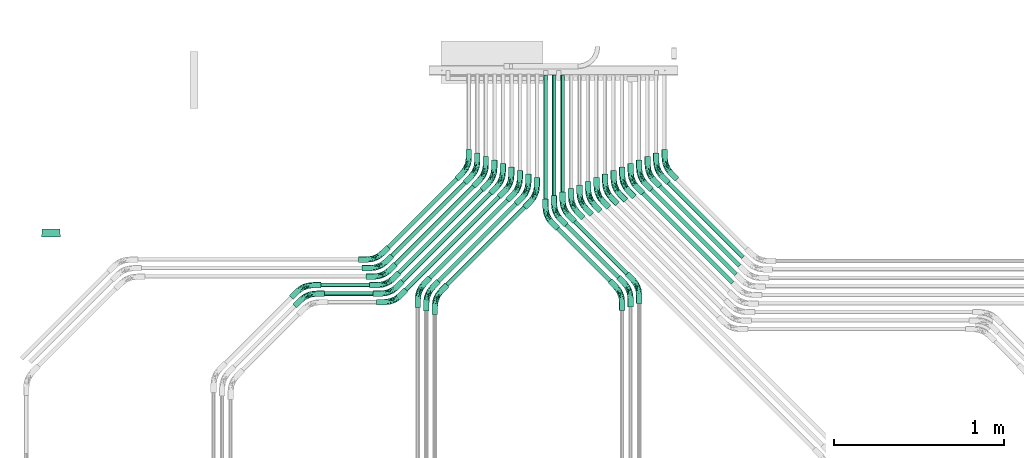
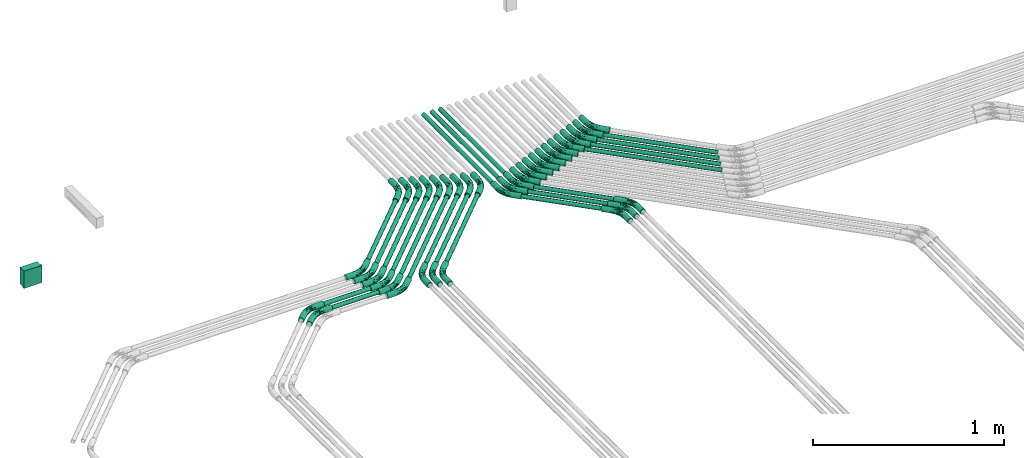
# One storey, part 16 of 51: 39 flow fittings, 21 flow segments.
"""IFC2X3 building model written with IfcOpenShell, lengths in millimetres."""

import ifcopenshell
import ifcopenshell.guid

model = None  # the IFC model being written
_history = None  # IfcOwnerHistory: only IFC2X3 demands one
_inside = {}  # id of a spatial element -> (the spatial element, [elements in it])
_under = {}  # id of a project, library or spatial element -> (it, [spatial elements below it])
_declared = {}  # id of a project -> (the project, [libraries it declares])
_typed = {}  # id of a type object -> (the type object, [elements of that type])
_made_of = {}  # id of a material, layer set ... -> (it, [elements and type objects made of it])


def new_model(schema):
    """Start an empty IFC model of exactly this schema.

    Asked for "IFC4X3", IfcOpenShell would pick the latest addendum, in which some entities
    have other attributes; the version numbers below select the first issue.
    IFC2X3 requires an IfcOwnerHistory on every rooted entity: one is made here for all.
    """
    global model, _history
    if schema == "IFC4X3":
        model = ifcopenshell.file(schema_version=(4, 3, 0, 0))
    else:
        model = ifcopenshell.file(schema=schema)
    _inside.clear()
    _under.clear()
    _declared.clear()
    _typed.clear()
    _made_of.clear()
    _history = None
    if model.schema == "IFC2X3":
        org = make("IfcOrganization", Name="unknown")
        user = make(
            "IfcPersonAndOrganization",
            ThePerson=make("IfcPerson", FamilyName="unknown"),
            TheOrganization=org,
        )
        app = make(
            "IfcApplication",
            ApplicationDeveloper=org,
            Version="unknown",
            ApplicationFullName="unknown",
            ApplicationIdentifier="unknown",
        )
        _history = make(
            "IfcOwnerHistory",
            OwningUser=user,
            OwningApplication=app,
            ChangeAction="ADDED",
            CreationDate=0,
        )
    return model


def make(cls, **values):
    """One entity of the class cls with the attributes given. An attribute that is None is left unset."""
    return model.create_entity(
        cls, **{name: value for name, value in values.items() if value is not None}
    )


def entity(cls, *values):
    """Any entity or typed value of the class cls, its attributes in the order of the schema. None: left unset."""
    e = model.create_entity(cls)
    for i, value in enumerate(values):
        if value is not None:
            e[i] = value
    return e


def rooted(cls, **values):
    """An entity with a GlobalId (a new one), such as an element, a storey or a relation."""
    return make(cls, GlobalId=ifcopenshell.guid.new(), OwnerHistory=_history, **values)


def si_unit(unit_type, name, prefix=None):
    """IfcSIUnit, for example si_unit("LENGTHUNIT", "METRE", prefix="MILLI")."""
    return make("IfcSIUnit", UnitType=unit_type, Prefix=prefix, Name=name)


def converted_unit(unit_type, name, factor, base, dimensions=None, offset=None):
    """IfcConversionBasedUnit, such as the inch: factor (a typed value) times the base unit."""
    return make(
        "IfcConversionBasedUnit"
        if offset is None
        else "IfcConversionBasedUnitWithOffset",
        ConversionOffset=offset,
        Dimensions=None
        if dimensions is None
        else entity("IfcDimensionalExponents", *dimensions),
        UnitType=unit_type,
        Name=name,
        ConversionFactor=make(
            "IfcMeasureWithUnit", ValueComponent=factor, UnitComponent=base
        ),
    )


def derived_unit(unit_type, elements):
    """IfcDerivedUnit: a product of units, each with its exponent."""
    return make(
        "IfcDerivedUnit",
        Elements=[
            make("IfcDerivedUnitElement", Unit=unit, Exponent=power)
            for unit, power in elements
        ],
        UnitType=unit_type,
    )


def assignment(units):
    """IfcUnitAssignment: the units of a project."""
    return None if units is None else make("IfcUnitAssignment", Units=units)


def point(xyz):
    """IfcCartesianPoint."""
    return None if xyz is None else make("IfcCartesianPoint", Coordinates=xyz)


def direction(xyz):
    """IfcDirection."""
    return None if xyz is None else make("IfcDirection", DirectionRatios=xyz)


def frame(location, z_axis=None, x_axis=None):
    """IfcAxis2Placement3D, a coordinate frame: its origin and axes. An axis left out is left unset."""
    return make(
        "IfcAxis2Placement3D",
        Location=point(location),
        Axis=direction(z_axis),
        RefDirection=direction(x_axis),
    )


def frame_2d(location, x_axis=None):
    """IfcAxis2Placement2D, a coordinate frame in the plane: its origin and x axis."""
    return make(
        "IfcAxis2Placement2D", Location=point(location), RefDirection=direction(x_axis)
    )


def origin_with_axes():
    """The frame at (0, 0, 0) with the z axis (0, 0, 1) and the x axis (1, 0, 0) written out."""
    return frame((0.0, 0.0, 0.0), z_axis=(0.0, 0.0, 1.0), x_axis=(1.0, 0.0, 0.0))


def origin_2d_with_axis():
    """The frame at (0, 0) in the plane with the x axis (1, 0) written out."""
    return frame_2d((0.0, 0.0), x_axis=(1.0, 0.0))


def place(relative_to, where):
    """IfcLocalPlacement: puts the frame where relative to a parent placement (None: the world)."""
    return make(
        "IfcLocalPlacement", PlacementRelTo=relative_to, RelativePlacement=where
    )


def context(
    kind, dimensions, precision=None, world=None, true_north=None, identifier=None
):
    """IfcGeometricRepresentationContext, for example the 3D "Model" context."""
    return make(
        "IfcGeometricRepresentationContext",
        ContextIdentifier=identifier,
        ContextType=kind,
        CoordinateSpaceDimension=dimensions,
        Precision=precision,
        WorldCoordinateSystem=world,
        TrueNorth=true_north,
    )


def subcontext(parent, identifier, kind, view, scale=None):
    """IfcGeometricRepresentationSubContext, for example "Body" below "Model"."""
    return make(
        "IfcGeometricRepresentationSubContext",
        ContextIdentifier=identifier,
        ContextType=kind,
        ParentContext=parent,
        TargetScale=scale,
        TargetView=view,
    )


def project(units=None, contexts=None):
    """IfcProject with its units and contexts."""
    return rooted(
        "IfcProject",
        Name="project",
        RepresentationContexts=contexts,
        UnitsInContext=assignment(units),
    )


def spatial(cls, under=None, at=None, **own):
    """A site, building, storey or space (cls), placed at a placement, below another one or the project."""
    s = rooted(cls, ObjectPlacement=at, **own)
    if under is not None:
        _under.setdefault(under.id(), (under, []))[1].append(s)
    return s


def profile(cls, at=None, kind="AREA", **sizes):
    """A parametric profile (cls). Its sizes go by their IFC names, for example OverallWidth=200.0."""
    return make(cls, ProfileType=kind, Position=at, **sizes)


def hollow_circle(**sizes):
    """IfcCircleHollowProfileDef."""
    return profile("IfcCircleHollowProfileDef", **sizes)


def extrude(swept, where, along, depth):
    """IfcExtrudedAreaSolid: the profile swept, set in the frame where, extruded along a direction by depth."""
    return make(
        "IfcExtrudedAreaSolid",
        SweptArea=swept,
        Position=where,
        ExtrudedDirection=direction(along),
        Depth=depth,
    )


def faces_of(points, faces, orient=None, outer=None):
    """IfcFace entities. A face is a list of loops; a loop is a list of indices into points, from 0.

    orient and outer hold one flag for each loop. By default every Orientation is true, the
    first loop of a face is its IfcFaceOuterBound and the others are IfcFaceBound.
    """
    made = []
    for i, loops in enumerate(faces):
        bounds = []
        for j, loop in enumerate(loops):
            is_outer = j == 0 if outer is None else outer[i][j]
            bounds.append(
                make(
                    "IfcFaceOuterBound" if is_outer else "IfcFaceBound",
                    Bound=make("IfcPolyLoop", Polygon=[points[k] for k in loop]),
                    Orientation=True if orient is None else orient[i][j],
                )
            )
        made.append(make("IfcFace", Bounds=bounds))
    return made


def open_shell(faces, orient=None, outer=None):
    """The faces of one IfcOpenShell. surface_model builds it on its shared points."""
    return ("IfcOpenShell", faces, orient, outer)


def surface_model(cls, points, shells):
    """IfcFaceBasedSurfaceModel or IfcShellBasedSurfaceModel (cls): surfaces that need not close."""
    shared = [point(p) for p in points]
    made = [make(c, CfsFaces=faces_of(shared, fs, o, b)) for c, fs, o, b in shells]
    if cls == "IfcFaceBasedSurfaceModel":
        return make(cls, FbsmFaces=made)
    return make(cls, SbsmBoundary=made)


def shape(context_of_items, identifier, shape_type, items):
    """IfcShapeRepresentation: the items that make up one representation, for example the "Body"."""
    return make(
        "IfcShapeRepresentation",
        ContextOfItems=context_of_items,
        RepresentationIdentifier=identifier,
        RepresentationType=shape_type,
        Items=items,
    )


def source(mapping_origin, context_of_items, identifier, shape_type, items):
    """IfcRepresentationMap: a shape defined once, which mapped items show again and again."""
    return make(
        "IfcRepresentationMap",
        MappingOrigin=mapping_origin,
        MappedRepresentation=shape(context_of_items, identifier, shape_type, items),
    )


def transform(
    local_origin,
    x_axis=None,
    y_axis=None,
    z_axis=None,
    scale=None,
    scale2=None,
    scale3=None,
    uniform=True,
):
    """IfcCartesianTransformationOperator3D, or its non-uniform kind. x_axis, y_axis, z_axis: its Axis1, 2, 3."""
    if uniform:
        return make(
            "IfcCartesianTransformationOperator3D",
            Axis1=direction(x_axis),
            Axis2=direction(y_axis),
            LocalOrigin=point(local_origin),
            Scale=scale,
            Axis3=direction(z_axis),
        )
    return make(
        "IfcCartesianTransformationOperator3DnonUniform",
        Axis1=direction(x_axis),
        Axis2=direction(y_axis),
        LocalOrigin=point(local_origin),
        Scale=scale,
        Axis3=direction(z_axis),
        Scale2=scale2,
        Scale3=scale3,
    )


def mapped(mapping_source, mapping_target):
    """IfcMappedItem: shows the shape of a source again, moved by a transform."""
    return make(
        "IfcMappedItem", MappingSource=mapping_source, MappingTarget=mapping_target
    )


def made_of(thing, what):
    """Note that an element or type object is made of a material, layer set ...; save() writes the relation."""
    if what is not None:
        _made_of.setdefault(what.id(), (what, []))[1].append(thing)
    return thing


def type_object(cls, material=None, **own):
    """A type object (cls), such as IfcWallType, which elements share."""
    return made_of(rooted(cls, **own), material)


def element(
    cls,
    number,
    at=None,
    inside=None,
    cuts=None,
    type_object=None,
    material=None,
    context=None,
    identifier="Body",
    shape_type=None,
    held_by="IfcProductDefinitionShape",
    body=None,
    shapes=None,
    **own,
):
    """One element of the class cls, such as IfcWall. Its Tag is "e" and its number.

    at: its placement. inside: the storey or other place that contains it. cuts: it is an
    opening in that element (IfcRelVoidsElement). A single representation is given by context,
    identifier, shape_type and body (its items); several are given by shapes. held_by: the class
    of the entity that holds the representations. save() writes the other relations.
    """
    e = rooted(cls, Tag="e%d" % number, ObjectPlacement=at, **own)
    if body is not None:
        shapes = [shape(context, identifier, shape_type, body)]
    if shapes is not None:
        e.Representation = make(held_by, Representations=shapes)
    if inside is not None:
        _inside.setdefault(inside.id(), (inside, []))[1].append(e)
    if cuts is not None:
        rooted(
            "IfcRelVoidsElement", RelatingBuildingElement=cuts, RelatedOpeningElement=e
        )
    if type_object is not None:
        _typed.setdefault(type_object.id(), (type_object, []))[1].append(e)
    return made_of(e, material)


def aggregate(whole, parts):
    """IfcRelAggregates: a whole, such as a stair, and the parts it consists of."""
    return rooted("IfcRelAggregates", RelatingObject=whole, RelatedObjects=parts)


def save(model, path):
    """Write the relations noted so far, then the file.

    IfcRelAggregates (storeys below a building ...), IfcRelContainedInSpatialStructure (elements
    in a storey), IfcRelDefinesByType, IfcRelAssociatesMaterial and IfcRelDeclares: one each for
    every whole, place, type object, material and project.
    """
    for whole, parts in _under.values():
        aggregate(whole, parts)
    for where, things in _inside.values():
        rooted(
            "IfcRelContainedInSpatialStructure",
            RelatedElements=things,
            RelatingStructure=where,
        )
    for kind, things in _typed.values():
        rooted("IfcRelDefinesByType", RelatedObjects=things, RelatingType=kind)
    for what, things in _made_of.values():
        rooted("IfcRelAssociatesMaterial", RelatedObjects=things, RelatingMaterial=what)
    for by, libraries in _declared.values():
        rooted("IfcRelDeclares", RelatingContext=by, RelatedDefinitions=libraries)
    model.write(path)


model = new_model("IFC2X3")

# Units and contexts
model_context = context("Model", 3, precision=0.01, world=frame((0.0, 4.29681676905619e-09, 0.0)), true_north=direction((4.01073788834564e-13, 1.0)))
plan_context = context("Plan", 3, precision=0.01, world=frame((0.0, 4.29681676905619e-09, 0.0)), true_north=direction((4.01073788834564e-13, 1.0)))
body_context = subcontext(model_context, "Body", "Model", "MODEL_VIEW")
ifc_project = project(units=[converted_unit("PLANEANGLEUNIT", "DEGREE", entity("IfcPositiveLengthMeasure", 0.0174532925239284), si_unit("PLANEANGLEUNIT", "RADIAN"), dimensions=[0, 0, 0, 0, 0, 0, 0]), si_unit("AREAUNIT", "SQUARE_METRE"), si_unit("LENGTHUNIT", "METRE", prefix="MILLI"), si_unit("MASSUNIT", "GRAM", prefix="KILO"), si_unit("POWERUNIT", "WATT"), si_unit("PRESSUREUNIT", "PASCAL"), si_unit("FORCEUNIT", "NEWTON", prefix="KILO"), si_unit("ELECTRICVOLTAGEUNIT", "VOLT"), si_unit("ELECTRICCURRENTUNIT", "AMPERE"), si_unit("THERMODYNAMICTEMPERATUREUNIT", "DEGREE_CELSIUS"), si_unit("TIMEUNIT", "SECOND"), si_unit("VOLUMEUNIT", "CUBIC_METRE"), derived_unit("LINEARVELOCITYUNIT", [(si_unit("LENGTHUNIT", "METRE"), 1), (si_unit("TIMEUNIT", "SECOND"), -1)]), derived_unit("VOLUMETRICFLOWRATEUNIT", [(si_unit("VOLUMEUNIT", "CUBIC_METRE"), 1), (si_unit("TIMEUNIT", "SECOND"), -1)]), derived_unit("THERMALTRANSMITTANCEUNIT", [(si_unit("POWERUNIT", "WATT"), 1), (si_unit("THERMODYNAMICTEMPERATUREUNIT", "KELVIN"), -1), (si_unit("AREAUNIT", "SQUARE_METRE"), -1)]), derived_unit("SOUNDPRESSUREUNIT", [(si_unit("PRESSUREUNIT", "PASCAL"), 1)])], contexts=[model_context, plan_context])

# Site, building, storey
site_placement = place(None, frame((0.0, -4.29681676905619e-09, 0.0), z_axis=(0.0, 0.0, 1.0), x_axis=(1.0, 0.0, 0.0)))
site = spatial("IfcSite", under=ifc_project, at=site_placement, Name="ENGM", CompositionType="ELEMENT")
building_placement = place(site_placement, frame((0.0, 4.29681676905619e-09, 0.0), z_axis=(0.0, 0.0, 1.0), x_axis=(1.0, 0.0, 0.0)))
building = spatial("IfcBuilding", under=site, at=building_placement, Name="TI", CompositionType="ELEMENT")
storey_placement = place(building_placement, frame((0.0, 0.0, 210900.0), z_axis=(0.0, 0.0, 1.0), x_axis=(1.0, 0.0, 0.0)))
storey = spatial("IfcBuildingStorey", under=building, at=storey_placement, Name="Nivå F", CompositionType="ELEMENT", Elevation=210900.0)

# Flow fittings
cable_carrier_fitting_type = type_object("IfcCableCarrierFittingType", Name="Trekkerør, glatt bend", PredefinedType="BEND")
shared_shape_1 = source(origin_with_axes(), body_context, "Body", "SurfaceModel", [
    surface_model("IfcShellBasedSurfaceModel", [(-101.90646, 8.46055, -14.6541), (-101.90646, 4.3795, -16.34452), (-101.90646, 0.0, -16.92109), (-101.90646, 14.6541, -8.46055), (-101.90646, -8.46055, -14.6541), (-101.90646, 11.96502, -11.96502), (-101.90646, -16.92109, 0.0), (-101.90646, -16.34452, 4.3795), (-101.90646, -11.96502, -11.96502), (-101.90646, -14.6541, -8.46055), (-101.90646, -4.3795, -16.34452), (-101.90646, -16.34452, -4.3795), (-101.90646, 16.92109, 0.0), (-101.90646, 16.34452, -4.3795), (-101.90646, 16.34452, 4.3795), (-101.90646, 14.6541, 8.46055), (-101.90646, 8.46055, 14.6541), (-101.90646, 11.96502, 11.96502), (-101.90646, 0.0, 16.92109), (-101.90646, 4.3795, 16.34452), (-101.90646, -11.96502, 11.96502), (-101.90646, -8.46055, 14.6541), (-101.90646, -14.6541, 8.46055), (-101.90646, -4.3795, 16.34452), (-54.58849, -16.92109, 0.0), (-54.58849, -16.34452, 4.3795), (-54.58849, -14.6541, 8.46055), (-54.58849, -11.96502, 11.96502), (-54.58849, -8.46055, 14.6541), (-54.58849, -4.3795, 16.34452), (-54.58849, 0.0, 16.92109), (-54.58849, 4.3795, 16.34452), (-54.58849, 8.46055, 14.6541), (-54.58849, 11.96502, 11.96502), (-54.58849, 14.6541, 8.46055), (-54.58849, 16.34452, 4.3795), (-54.58849, 16.92109, 0.0), (-54.58849, 16.34452, -4.3795), (-54.58849, 14.6541, -8.46055), (-54.58849, 11.96502, -11.96502), (-54.58849, 8.46055, -14.6541), (-54.58849, 4.3795, -16.34452), (-54.58849, 0.0, -16.92109), (-54.58849, -4.3795, -16.34452), (-54.58849, -8.46055, -14.6541), (-54.58849, -11.96502, -11.96502), (-54.58849, -14.6541, -8.46055), (-54.58849, -16.34452, -4.3795), (10.9245, -1.31078, 3.47544), (-13.36235, -10.76027, 3.27049), (-16.09967, -11.85394, 0.0), (41.69667, 35.50312, 16.34452), (38.59989, 38.59989, 16.92109), (22.26214, 21.90343, 16.76352), (-19.66365, -2.12805, 15.57779), (-29.58477, -8.16493, 13.36262), (-20.60685, -9.47816, 10.19127), (-34.07223, 17.39409, 6.62821), (-10.25807, 24.76518, 5.65746), (-29.40446, 19.36118, 3.4046), (-3.22837, 7.79397, 16.74683), (-31.22977, -0.25365, 16.76352), (35.50312, 41.69667, 16.34452), (32.61738, 44.5824, 14.6541), (17.47707, 29.1678, 15.66764), (-16.62388, 19.5721, 10.43045), (-25.92736, 13.63005, 13.4985), (5.09993, 25.84703, 13.50914), (-21.17216, 6.44783, 16.79403), (19.76619, 3.00218, 0.0), (-6.56017, 15.83764, 15.71089), (-32.9829, 8.26659, 15.66764), (19.50033, 6.79523, 10.18462), (48.96191, 28.23788, 8.46055), (47.06044, 30.13935, 11.96502), (-0.14544, 0.35113, 13.28643), (-24.85868, 20.8351, 0.0), (44.5824, 32.61738, 14.6541), (26.69306, 15.14611, 13.36262), (8.9424, 34.00903, 7.47137), (8.93562, 35.31889, 4.60583), (25.73601, 8.11548, 6.36012), (-6.07752, -7.50254, 6.29064), (28.23788, 48.96191, 8.46055), (10.0687, 32.56851, 10.38353), (30.13935, 47.06044, 11.96502), (-30.89964, -14.04008, 5.64535), (16.01237, 12.75836, 15.5789), (12.05401, 20.50658, 16.79305), (50.15722, 27.04257, 4.3795), (50.56491, 26.63487, 0.0), (32.88314, 11.79305, 2.69799), (2.8451, 32.31038, 0.0), (26.63487, 50.56491, 0.0), (27.04257, 50.15722, 4.3795), (-32.9829, 8.26659, -15.66764), (16.55602, 18.09298, -16.75967), (38.59989, 38.59989, -16.92109), (41.69667, 35.50312, -16.34452), (30.13935, 47.06044, -11.96502), (32.61738, 44.5824, -14.6541), (8.69552, 27.97131, -13.4985), (-6.56017, 15.83764, -15.71089), (-21.88281, 14.67041, -13.50914), (-31.29267, 18.65579, -4.60583), (-30.37125, 17.72478, -7.47137), (-10.25807, 24.76517, -5.65746), (-1.59965, 3.86188, -15.54749), (17.63726, 9.2923, -13.33594), (-19.1381, -5.92521, -13.33619), (-2.08471, 25.59442, -10.43045), (-30.14906, 15.90977, -10.38353), (-24.73941, 5.56629, -16.79215), (10.41167, 19.53028, -16.79403), (-18.36618, -11.17146, -6.33871), (-28.92763, -11.20296, -10.21852), (-19.67101, 2.27248, -16.75686), (-22.81878, -13.17372, -3.2081), (17.47707, 29.1678, -15.66764), (-30.36783, -4.42984, -15.59506), (24.60567, 18.34093, -15.59506), (35.50312, 41.69667, -16.34452), (7.10167, 34.48251, -3.4046), (27.04257, 50.15722, -4.3795), (44.5824, 32.61738, -14.6541), (47.06044, 30.13935, -11.96502), (28.23788, 48.96191, -8.46055), (11.79322, 36.39219, -6.62821), (1.03493, -2.49855, -10.11808), (48.96191, 28.23788, -8.46055), (28.37661, 12.53324, -10.21852), (20.88626, 5.08744, -6.33871), (25.45054, 6.82009, -3.2081), (2.19574, -5.30098, -3.30061), (50.15722, 27.04257, -4.3795), (60.50143, 83.61607, -4.3795), (72.05875, 72.05875, -16.92109), (68.96197, 75.15552, -16.34452), (66.07624, 78.04126, -14.6541), (63.5982, 80.51929, -11.96502), (61.69674, 82.42076, -8.46055), (75.15552, 68.96197, -16.34452), (80.51929, 63.5982, -11.96502), (78.04126, 66.07624, -14.6541), (83.61607, 60.50143, -4.3795), (82.42076, 61.69674, -8.46055), (83.61607, 60.50143, 4.3795), (84.02377, 60.09373, 0.0), (75.15552, 68.96197, 16.34452), (60.50143, 83.61607, 4.3795), (61.69674, 82.42076, 8.46055), (66.07624, 78.04126, 14.6541), (72.05875, 72.05875, 16.92109), (63.5982, 80.51929, 11.96502), (68.96197, 75.15552, 16.34452), (80.51929, 63.5982, 11.96502), (82.42076, 61.69674, 8.46055), (78.04126, 66.07624, 14.6541), (60.09373, 84.02377, 0.0)], [open_shell([[[0, 1, 2]], [[3, 0, 2]], [[4, 3, 2]], [[5, 0, 3]], [[3, 6, 7]], [[8, 9, 4]], [[2, 10, 4]], [[9, 11, 4]], [[11, 3, 4]], [[3, 11, 6]], [[12, 13, 3]], [[12, 7, 14]], [[14, 7, 15]], [[16, 17, 18]], [[15, 18, 17]], [[18, 19, 16]], [[20, 21, 22]], [[15, 7, 22]], [[23, 18, 21]], [[15, 22, 21]], [[15, 21, 18]], [[3, 7, 12]], [[7, 24, 25]], [[26, 22, 25]], [[21, 27, 28]], [[26, 27, 20]], [[23, 28, 29]], [[24, 7, 6]], [[25, 22, 7]], [[26, 20, 22]], [[27, 21, 20]], [[23, 21, 28]], [[29, 18, 23]], [[29, 30, 18]], [[16, 31, 32]], [[33, 17, 32]], [[14, 34, 35]], [[33, 34, 15]], [[12, 35, 36]], [[31, 19, 30]], [[31, 16, 19]], [[30, 19, 18]], [[32, 17, 16]], [[33, 15, 17]], [[14, 15, 34]], [[35, 12, 14]], [[13, 36, 37]], [[38, 3, 37]], [[0, 39, 40]], [[38, 39, 5]], [[1, 40, 41]], [[36, 13, 12]], [[37, 3, 13]], [[38, 5, 3]], [[39, 0, 5]], [[1, 0, 40]], [[41, 2, 1]], [[41, 42, 2]], [[4, 43, 44]], [[45, 8, 44]], [[11, 46, 47]], [[45, 46, 9]], [[6, 47, 24]], [[43, 10, 42]], [[43, 4, 10]], [[42, 10, 2]], [[44, 8, 4]], [[45, 9, 8]], [[11, 9, 46]], [[47, 6, 11]], [[48, 49, 50]], [[49, 24, 50]], [[51, 52, 53]], [[29, 28, 54]], [[27, 55, 28]], [[56, 27, 26]], [[57, 58, 59]], [[60, 61, 54]], [[61, 30, 29]], [[62, 63, 64]], [[65, 66, 67]], [[31, 30, 68]], [[48, 50, 69]], [[67, 66, 70]], [[33, 32, 66]], [[65, 58, 57]], [[71, 32, 31]], [[72, 73, 74]], [[56, 72, 75]], [[59, 76, 36]], [[74, 77, 78]], [[36, 35, 59]], [[58, 79, 80]], [[81, 72, 82]], [[70, 71, 68]], [[83, 84, 85]], [[25, 49, 86]], [[34, 33, 65]], [[87, 77, 51]], [[54, 87, 60]], [[72, 56, 82]], [[88, 70, 68]], [[72, 81, 73]], [[73, 81, 89]], [[88, 62, 64]], [[78, 72, 74]], [[60, 88, 68]], [[90, 89, 91]], [[48, 81, 82]], [[55, 56, 75]], [[84, 67, 85]], [[59, 92, 76]], [[26, 86, 56]], [[92, 80, 93]], [[75, 78, 87]], [[80, 79, 94]], [[87, 51, 53]], [[70, 64, 67]], [[61, 68, 30]], [[65, 84, 79]], [[60, 53, 88]], [[67, 63, 85]], [[88, 52, 62]], [[65, 33, 66]], [[75, 87, 54]], [[91, 81, 48]], [[66, 32, 71]], [[55, 54, 28]], [[79, 84, 83]], [[67, 84, 65]], [[56, 55, 27]], [[54, 55, 75]], [[87, 78, 77]], [[72, 78, 75]], [[94, 79, 83]], [[65, 79, 58]], [[93, 80, 94]], [[92, 58, 80]], [[54, 61, 29]], [[68, 61, 60]], [[88, 53, 52]], [[87, 53, 60]], [[48, 82, 49]], [[91, 48, 69]], [[90, 91, 69]], [[81, 91, 89]], [[86, 49, 82]], [[24, 49, 25]], [[56, 86, 82]], [[26, 25, 86]], [[68, 71, 31]], [[66, 71, 70]], [[67, 64, 63]], [[88, 64, 70]], [[57, 35, 34]], [[92, 59, 58]], [[35, 57, 59]], [[65, 57, 34]], [[40, 95, 41]], [[96, 97, 98]], [[99, 100, 101]], [[102, 95, 103]], [[76, 104, 36]], [[104, 105, 37]], [[104, 106, 105]], [[107, 108, 109]], [[105, 110, 111]], [[40, 39, 103]], [[110, 99, 101]], [[112, 102, 113]], [[114, 46, 115]], [[116, 113, 96]], [[24, 47, 117]], [[110, 101, 103]], [[114, 47, 46]], [[101, 100, 118]], [[119, 44, 43]], [[112, 41, 95]], [[46, 45, 115]], [[45, 44, 109]], [[107, 119, 116]], [[113, 116, 112]], [[96, 98, 120]], [[113, 121, 97]], [[122, 76, 92]], [[112, 116, 42]], [[93, 123, 122]], [[124, 125, 108]], [[43, 42, 116]], [[110, 126, 99]], [[102, 103, 101]], [[106, 122, 127]], [[100, 121, 118]], [[128, 115, 109]], [[109, 44, 119]], [[127, 110, 106]], [[128, 109, 108]], [[113, 102, 118]], [[120, 98, 124]], [[113, 97, 96]], [[129, 130, 125]], [[107, 120, 108]], [[42, 41, 112]], [[107, 116, 96]], [[128, 130, 131]], [[128, 131, 114]], [[69, 132, 90]], [[69, 133, 132]], [[50, 117, 133]], [[133, 117, 114]], [[133, 69, 50]], [[129, 134, 131]], [[130, 108, 125]], [[122, 92, 93]], [[111, 103, 39]], [[38, 111, 39]], [[105, 111, 38]], [[103, 111, 110]], [[109, 115, 45]], [[114, 115, 128]], [[131, 130, 129]], [[108, 130, 128]], [[37, 105, 38]], [[110, 105, 106]], [[36, 104, 37]], [[76, 106, 104]], [[116, 119, 43]], [[109, 119, 107]], [[108, 120, 124]], [[96, 120, 107]], [[114, 131, 133]], [[132, 133, 131]], [[103, 95, 40]], [[112, 95, 102]], [[113, 118, 121]], [[101, 118, 102]], [[24, 117, 50]], [[47, 114, 117]], [[131, 134, 132]], [[90, 132, 134]], [[127, 123, 126]], [[76, 122, 106]], [[123, 127, 122]], [[110, 127, 126]], [[135, 136, 137]], [[135, 137, 138]], [[139, 140, 135]], [[139, 135, 138]], [[136, 135, 141]], [[141, 142, 143]], [[142, 141, 144]], [[142, 144, 145]], [[141, 135, 144]], [[144, 146, 147]], [[144, 135, 148]], [[135, 149, 150]], [[150, 151, 135]], [[151, 152, 135]], [[151, 150, 153]], [[151, 154, 152]], [[146, 155, 156]], [[155, 146, 157]], [[146, 148, 157]], [[146, 144, 148]], [[152, 148, 135]], [[149, 135, 158]], [[89, 147, 146]], [[156, 73, 146]], [[77, 155, 157]], [[156, 155, 74]], [[51, 157, 148]], [[147, 89, 90]], [[146, 73, 89]], [[156, 74, 73]], [[155, 77, 74]], [[51, 77, 157]], [[148, 52, 51]], [[148, 152, 52]], [[63, 154, 151]], [[153, 85, 151]], [[94, 150, 149]], [[153, 150, 83]], [[93, 149, 158]], [[154, 62, 152]], [[154, 63, 62]], [[152, 62, 52]], [[151, 85, 63]], [[153, 83, 85]], [[94, 83, 150]], [[149, 93, 94]], [[93, 158, 135]], [[140, 123, 135]], [[138, 137, 121]], [[139, 138, 99]], [[126, 140, 139]], [[140, 126, 123]], [[123, 93, 135]], [[99, 138, 100]], [[100, 138, 121]], [[137, 97, 121]], [[99, 126, 139]], [[137, 136, 97]], [[124, 141, 143]], [[142, 125, 143]], [[134, 145, 144]], [[142, 145, 129]], [[90, 144, 147]], [[141, 98, 136]], [[141, 124, 98]], [[136, 98, 97]], [[143, 125, 124]], [[142, 129, 125]], [[134, 129, 145]], [[144, 90, 134]]])]),
])
for number, where, z_axis, x_axis, name in (
    (1, (601074.75961, 698508.50371, -56.7999999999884), (0.0, 0.0, 1.0), (0.0, -1.0, 0.0), "Trekkerør, glatt bend"),
    (2, (601525.0, 698058.26332, -56.7999999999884), (0.0, 0.0, 1.0), (0.0, 1.0, 0.0), "Trekkerør, glatt bend"),
    (3, (601124.75961, 698529.21439, -56.7999999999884), (0.0, 0.0, 1.0), (0.0, -1.0, 0.0), "Trekkerør, glatt bend"),
    (4, (601575.0, 698078.974, -56.7999999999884), (0.0, 0.0, 1.0), (0.0, 1.0, 0.0), "Trekkerør, glatt bend"),
    (5, (601174.75961, 698549.92507, -56.7999999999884), (0.0, 0.0, 1.0), (0.0, -1.0, 0.0), "Trekkerør, glatt bend"),
    (6, (601625.0, 698099.68468, -56.7999999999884), (0.0, 0.0, 1.0), (0.0, 1.0, 0.0), "Trekkerør, glatt bend"),
    (7, (601774.75961, 698798.95573, -56.7999999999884), (0.0, 0.0, 1.0), (0.0, -1.0, 0.0), "Trekkerør, glatt bend"),
    (8, (601724.75961, 698778.24505, -56.7999999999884), (0.0, 0.0, 1.0), (0.0, -1.0, 0.0), "Trekkerør, glatt bend"),
    (9, (601674.75961, 698757.53437, -56.7999999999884), (0.0, 0.0, 1.0), (0.0, -1.0, 0.0), "Trekkerør, glatt bend"),
    (10, (601624.75961, 698736.82369, -56.7999999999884), (0.0, 0.0, 1.0), (0.0, -1.0, 0.0), "Trekkerør, glatt bend"),
    (11, (601574.75961, 698716.11302, -56.7999999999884), (0.0, 0.0, 1.0), (0.0, -1.0, 0.0), "Trekkerør, glatt bend"),
    (12, (601524.75961, 698695.40234, -56.7999999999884), (0.0, 0.0, 1.0), (0.0, -1.0, 0.0), "Trekkerør, glatt bend"),
    (13, (601474.75961, 698674.69166, -56.7999999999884), (0.0, 0.0, 1.0), (0.0, -1.0, 0.0), "Trekkerør, glatt bend"),
    (14, (601424.75961, 698653.98098, -56.7999999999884), (0.0, 0.0, 1.0), (0.0, -1.0, 0.0), "Trekkerør, glatt bend"),
    (15, (601374.75961, 698633.2703, -56.7999999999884), (0.0, 0.0, 1.0), (0.0, -1.0, 0.0), "Trekkerør, glatt bend"),
    (16, (601324.75961, 698612.55963, -56.7999999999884), (0.0, 0.0, 1.0), (0.0, -1.0, 0.0), "Trekkerør, glatt bend"),
    (17, (601274.75961, 698591.84895, -56.7999999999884), (0.0, 0.0, 1.0), (0.0, -1.0, 0.0), "Trekkerør, glatt bend"),
    (18, (601224.75961, 698571.13827, -56.7999999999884), (0.0, 0.0, 1.0), (0.0, -1.0, 0.0), "Trekkerør, glatt bend"),
    (19, (599654.25757, 698104.50648, -56.7999999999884), (0.0, 0.0, 1.0), (-1.0, 0.0, 0.0), "Trekkerør, glatt bend"),
    (20, (599674.96825, 698054.50648, -56.7999999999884), (0.0, 0.0, 1.0), (-1.0, 0.0, 0.0), "Trekkerør, glatt bend"),
    (21, (600079.78036, 698254.50648, -56.7999999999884), (0.0, 0.0, 1.0), (1.0, 0.0, 0.0), "Trekkerør, glatt bend"),
    (22, (600624.75961, 698799.48573, -56.7999999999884), (0.0, 0.0, 1.0), (0.707106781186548, 0.707106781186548, 0.0), "Trekkerør, glatt bend"),
    (23, (600141.9124, 698104.50648, -56.7999999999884), (0.0, 0.0, 1.0), (1.0, 0.0, 0.0), "Trekkerør, glatt bend"),
    (24, (600774.75961, 698737.3537, -56.7999999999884), (0.0, 0.0, 1.0), (0.707106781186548, 0.707106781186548, 0.0), "Trekkerør, glatt bend"),
    (25, (600100.49104, 698204.50648, -56.7999999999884), (0.0, 0.0, 1.0), (1.0, 0.0, 0.0), "Trekkerør, glatt bend"),
    (26, (600674.75961, 698778.77505, -56.7999999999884), (0.0, 0.0, 1.0), (0.707106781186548, 0.707106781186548, 0.0), "Trekkerør, glatt bend"),
    (27, (600121.20172, 698154.50648, -56.7999999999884), (0.0, 0.0, 1.0), (1.0, 0.0, 0.0), "Trekkerør, glatt bend"),
    (28, (600724.75961, 698758.06437, -56.7999999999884), (0.0, 0.0, 1.0), (0.707106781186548, 0.707106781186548, 0.0), "Trekkerør, glatt bend"),
    (29, (600162.62308, 698054.50648, -56.7999999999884), (0.0, 0.0, 1.0), (1.0, 0.0, 0.0), "Trekkerør, glatt bend"),
    (30, (600824.75961, 698716.64302, -56.7999999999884), (0.0, 0.0, 1.0), (0.707106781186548, 0.707106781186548, 0.0), "Trekkerør, glatt bend"),
    (31, (600183.33376, 698004.50648, -56.7999999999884), (0.0, 0.0, 1.0), (1.0, 0.0, 0.0), "Trekkerør, glatt bend"),
    (32, (600874.75961, 698695.93234, -56.7999999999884), (0.0, 0.0, 1.0), (0.707106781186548, 0.707106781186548, 0.0), "Trekkerør, glatt bend"),
    (33, (601024.75961, 698633.80031, -56.7999999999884), (0.0, 0.0, 1.0), (0.707106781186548, 0.707106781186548, 0.0), "Trekkerør, glatt bend"),
    (34, (600974.75961, 698654.51098, -56.7999999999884), (0.0, 0.0, 1.0), (0.707106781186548, 0.707106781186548, 0.0), "Trekkerør, glatt bend"),
    (35, (600924.75961, 698675.22166, -56.7999999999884), (0.0, 0.0, 1.0), (0.707106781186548, 0.707106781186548, 0.0), "Trekkerør, glatt bend"),
    (36, (600325.0, 698075.46205, -56.7999999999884), (0.0, 0.0, 1.0), (-0.707106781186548, -0.707106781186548, 0.0), "Trekkerør, glatt bend"),
    (37, (600375.0, 698054.75137, -56.7999999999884), (0.0, 0.0, 1.0), (-0.707106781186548, -0.707106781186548, 0.0), "Trekkerør, glatt bend"),
    (38, (600425.0, 698034.04069, -56.7999999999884), (0.0, 0.0, 1.0), (-0.707106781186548, -0.707106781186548, 0.0), "Trekkerør, glatt bend"),
):
    element("IfcFlowFitting", number, at=place(storey_placement, frame(where, z_axis=z_axis, x_axis=x_axis)), inside=storey, type_object=cable_carrier_fitting_type, Name=name, context=body_context, shape_type="MappedRepresentation", body=[
        mapped(shared_shape_1, transform((0.0, 0.0, 0.0), scale=1.0)),
    ])
junction_box_type = type_object("IfcJunctionBoxType", Name="Koblingsboks åpen", PredefinedType="NOTDEFINED")
shared_shape_2 = source(origin_with_axes(), body_context, "Body", "SurfaceModel", [
    surface_model("IfcShellBasedSurfaceModel", [(-55.0, 46.0, 55.0), (-55.0, 32.2, 55.0), (55.0, 32.2, 55.0), (55.0, 46.0, 55.0), (55.0, 46.0, -55.0), (55.0, 32.2, -55.0), (-55.0, 32.2, -55.0), (-55.0, 46.0, -55.0), (-52.0, 32.2, 52.0), (-52.0, 0.0, 52.0), (52.0, 0.0, 52.0), (52.0, 32.2, 52.0), (52.0, 32.2, -52.0), (52.0, 0.0, -52.0), (-52.0, 0.0, -52.0), (-52.0, 32.2, -52.0)], [open_shell([[[0, 1, 2]], [[2, 3, 0]], [[4, 5, 6]], [[6, 7, 4]], [[2, 1, 6]], [[6, 5, 2]], [[3, 2, 5]], [[5, 4, 3]], [[0, 3, 4]], [[4, 7, 0]], [[1, 0, 7]], [[7, 6, 1]], [[8, 9, 10]], [[10, 11, 8]], [[12, 13, 14]], [[14, 15, 12]], [[10, 9, 14]], [[14, 13, 10]], [[11, 10, 13]], [[13, 12, 11]], [[8, 11, 12]], [[12, 15, 8]], [[9, 8, 15]], [[15, 14, 9]]])]),
])
flow_fitting_placement = place(storey_placement, frame((598170.00978, 698433.0, 500.0), z_axis=(0.0, 0.0, 1.0), x_axis=(-0.999999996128, -8.7999999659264e-05, 0.0)))
element("IfcFlowFitting", 39, at=flow_fitting_placement, inside=storey, type_object=junction_box_type, Name="Koblingsboks åpen", context=body_context, shape_type="MappedRepresentation", body=[
    mapped(shared_shape_2, transform((0.0, 0.0, 0.0), scale=1.0)),
])

# Flow segments
cable_carrier_segment_type = type_object("IfcCableCarrierSegmentType", Name="Trekkerør, korrugert", PredefinedType="CONDUITSEGMENT")
shared_shape_3 = source(origin_with_axes(), body_context, "Body", "SweptSolid", [
    extrude(hollow_circle(Radius=12.5, WallThickness=2.0, at=origin_2d_with_axis()), frame((0.0, 0.0, 0.0), z_axis=(1.0, 0.0, 0.0), x_axis=(0.0, 1.0, 0.0)), (0.0, 0.0, 1.0), 727.1),
])
flow_segment_1_placement = place(storey_placement, frame((601074.75961, 698610.41017, -56.7999999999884), z_axis=(0.0, 0.0, 1.0), x_axis=(0.0, 1.0, 0.0)))
element("IfcFlowSegment", 40, at=flow_segment_1_placement, inside=storey, type_object=cable_carrier_segment_type, Name="Trekkerør, korrugert", context=body_context, shape_type="MappedRepresentation", body=[
    mapped(shared_shape_3, transform((0.0, 0.0, 0.0), scale=1.0)),
])
shared_shape_4 = source(origin_with_axes(), body_context, "Body", "SweptSolid", [
    extrude(hollow_circle(Radius=12.5, WallThickness=2.0, at=origin_2d_with_axis()), frame((0.0, 0.0, 0.0), z_axis=(1.0, 0.0, 0.0), x_axis=(0.0, 1.0, 0.0)), (0.0, 0.0, 1.0), 432.9),
])
for number, where, z_axis, x_axis in (
    (41, (601146.81836, 698436.44496, -56.7999999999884), (0.0, 0.0, 1.0), (0.707097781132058, -0.707115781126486, 0.0)),
    (42, (601196.81836, 698457.15564, -56.7999999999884), (0.0, 0.0, 1.0), (0.707097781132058, -0.707115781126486, 0.0)),
    (43, (601246.81836, 698477.86632, -56.7999999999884), (0.0, 0.0, 1.0), (0.707097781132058, -0.707115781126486, 0.0)),
):
    element("IfcFlowSegment", number, at=place(storey_placement, frame(where, z_axis=z_axis, x_axis=x_axis)), inside=storey, type_object=cable_carrier_segment_type, Name="Trekkerør, korrugert", context=body_context, shape_type="MappedRepresentation", body=[
        mapped(shared_shape_4, transform((0.0, 0.0, 0.0), scale=1.0, scale2=1.0, scale3=1.0, uniform=False)),
    ])
shared_shape_5 = source(origin_with_axes(), body_context, "Body", "SweptSolid", [
    extrude(hollow_circle(Radius=12.5, WallThickness=2.0, at=origin_2d_with_axis()), frame((0.0, 0.0, 0.0), z_axis=(1.0, 0.0, 0.0), x_axis=(0.0, 1.0, 0.0)), (0.0, 0.0, 1.0), 706.4),
])
flow_segment_2_placement = place(storey_placement, frame((601124.75961, 698631.12085, -56.7999999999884), z_axis=(0.0, 0.0, 1.0), x_axis=(0.0, 1.0, 0.0)))
element("IfcFlowSegment", 44, at=flow_segment_2_placement, inside=storey, type_object=cable_carrier_segment_type, Name="Trekkerør, korrugert", context=body_context, shape_type="MappedRepresentation", body=[
    mapped(shared_shape_5, transform((0.0, 0.0, 0.0), scale=1.0)),
])
shared_shape_6 = source(origin_with_axes(), body_context, "Body", "SweptSolid", [
    extrude(hollow_circle(Radius=12.5, WallThickness=2.0, at=origin_2d_with_axis()), frame((0.0, 0.0, 0.0), z_axis=(1.0, 0.0, 0.0), x_axis=(0.0, 1.0, 0.0)), (0.0, 0.0, 1.0), 685.7),
])
flow_segment_3_placement = place(storey_placement, frame((601174.75961, 698651.83153, -56.7999999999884), z_axis=(0.0, 0.0, 1.0), x_axis=(0.0, 1.0, 0.0)))
element("IfcFlowSegment", 45, at=flow_segment_3_placement, inside=storey, type_object=cable_carrier_segment_type, Name="Trekkerør, korrugert", context=body_context, shape_type="MappedRepresentation", body=[
    mapped(shared_shape_6, transform((0.0, 0.0, 0.0), scale=1.0)),
])
shared_shape_7 = source(origin_with_axes(), body_context, "Body", "SweptSolid", [
    extrude(hollow_circle(Radius=12.5, WallThickness=2.0, at=origin_2d_with_axis()), frame((0.0, 0.0, 0.0), z_axis=(1.0, 0.0, 0.0), x_axis=(0.0, 1.0, 0.0)), (0.0, 0.0, 1.0), 619.4),
])
flow_segment_4_placement = place(storey_placement, frame((602234.80416, 698268.2005, -56.7999999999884), z_axis=(0.0, 0.0, 1.0), x_axis=(-0.707106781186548, 0.707106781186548, 0.0)))
element("IfcFlowSegment", 46, at=flow_segment_4_placement, inside=storey, type_object=cable_carrier_segment_type, Name="Trekkerør, korrugert", context=body_context, shape_type="MappedRepresentation", body=[
    mapped(shared_shape_7, transform((0.0, 0.0, 0.0), scale=1.0)),
])
shared_shape_8 = source(origin_with_axes(), body_context, "Body", "SweptSolid", [
    extrude(hollow_circle(Radius=12.5, WallThickness=2.0, at=origin_2d_with_axis()), frame((0.0, 0.0, 0.0), z_axis=(1.0, 0.0, 0.0), x_axis=(0.0, 1.0, 0.0)), (0.0, 0.0, 1.0), 660.8),
])
flow_segment_5_placement = place(storey_placement, frame((602214.09349, 698218.2005, -56.7999999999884), z_axis=(0.0, 0.0, 1.0), x_axis=(-0.707106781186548, 0.707106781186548, 0.0)))
element("IfcFlowSegment", 47, at=flow_segment_5_placement, inside=storey, type_object=cable_carrier_segment_type, Name="Trekkerør, korrugert", context=body_context, shape_type="MappedRepresentation", body=[
    mapped(shared_shape_8, transform((0.0, 0.0, 0.0), scale=1.0)),
])
shared_shape_9 = source(origin_with_axes(), body_context, "Body", "SweptSolid", [
    extrude(hollow_circle(Radius=12.5, WallThickness=2.0, at=origin_2d_with_axis()), frame((0.0, 0.0, 0.0), z_axis=(1.0, 0.0, 0.0), x_axis=(0.0, 1.0, 0.0)), (0.0, 0.0, 1.0), 702.2),
])
flow_segment_6_placement = place(storey_placement, frame((602193.38281, 698168.2005, -56.7999999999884), z_axis=(0.0, 0.0, 1.0), x_axis=(-0.707106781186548, 0.707106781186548, 0.0)))
element("IfcFlowSegment", 48, at=flow_segment_6_placement, inside=storey, type_object=cable_carrier_segment_type, Name="Trekkerør, korrugert", context=body_context, shape_type="MappedRepresentation", body=[
    mapped(shared_shape_9, transform((0.0, 0.0, 0.0), scale=1.0)),
])
shared_shape_10 = source(origin_with_axes(), body_context, "Body", "SweptSolid", [
    extrude(hollow_circle(Radius=12.5, WallThickness=2.0, at=origin_2d_with_axis()), frame((0.0, 0.0, 0.0), z_axis=(1.0, 0.0, 0.0), x_axis=(0.0, 1.0, 0.0)), (0.0, 0.0, 1.0), 743.7),
])
flow_segment_7_placement = place(storey_placement, frame((602172.67213, 698118.2005, -56.7999999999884), z_axis=(0.0, 0.0, 1.0), x_axis=(-0.707106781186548, 0.707106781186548, 0.0)))
element("IfcFlowSegment", 49, at=flow_segment_7_placement, inside=storey, type_object=cable_carrier_segment_type, Name="Trekkerør, korrugert", context=body_context, shape_type="MappedRepresentation", body=[
    mapped(shared_shape_10, transform((0.0, 0.0, 0.0), scale=1.0)),
])
shared_shape_11 = source(origin_with_axes(), body_context, "Body", "SweptSolid", [
    extrude(hollow_circle(Radius=12.5, WallThickness=2.0, at=origin_2d_with_axis()), frame((0.0, 0.0, 0.0), z_axis=(1.0, 0.0, 0.0), x_axis=(0.0, 1.0, 0.0)), (0.0, 0.0, 1.0), 643.7),
])
for number, where, z_axis, x_axis in (
    (50, (600497.05875, 698106.09944, -56.7999999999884), (0.0, 0.0, 1.0), (0.707106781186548, 0.707106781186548, 0.0)),
    (51, (600447.05875, 698126.81012, -56.7999999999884), (0.0, 0.0, 1.0), (0.707106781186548, 0.707106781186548, 0.0)),
    (52, (600397.05875, 698147.5208, -56.7999999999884), (0.0, 0.0, 1.0), (0.707106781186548, 0.707106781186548, 0.0)),
):
    element("IfcFlowSegment", number, at=place(storey_placement, frame(where, z_axis=z_axis, x_axis=x_axis)), inside=storey, type_object=cable_carrier_segment_type, Name="Trekkerør, korrugert", context=body_context, shape_type="MappedRepresentation", body=[
        mapped(shared_shape_11, transform((0.0, 0.0, 0.0), scale=1.0)),
    ])
shared_shape_12 = source(origin_with_axes(), body_context, "Body", "SweptSolid", [
    extrude(hollow_circle(Radius=12.5, WallThickness=2.0, at=origin_2d_with_axis()), frame((0.0, 0.0, 0.0), z_axis=(1.0, 0.0, 0.0), x_axis=(0.0, 1.0, 0.0)), (0.0, 0.0, 1.0), 283.8),
])
for number, where, z_axis, x_axis in (
    (53, (599756.16403, 698104.50648, -56.7999999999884), (0.0, 0.0, 1.0), (1.0, 0.0, 0.0)),
    (54, (599776.87471, 698054.50648, -56.7999999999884), (0.0, 0.0, 1.0), (1.0, 0.0, 0.0)),
):
    element("IfcFlowSegment", number, at=place(storey_placement, frame(where, z_axis=z_axis, x_axis=x_axis)), inside=storey, type_object=cable_carrier_segment_type, Name="Trekkerør, korrugert", context=body_context, shape_type="MappedRepresentation", body=[
        mapped(shared_shape_12, transform((0.0, 0.0, 0.0), scale=1.0)),
    ])
shared_shape_13 = source(origin_with_axes(), body_context, "Body", "SweptSolid", [
    extrude(hollow_circle(Radius=12.5, WallThickness=2.0, at=origin_2d_with_axis()), frame((0.0, 0.0, 0.0), z_axis=(1.0, 0.0, 0.0), x_axis=(0.0, 1.0, 0.0)), (0.0, 0.0, 1.0), 566.9),
])
flow_segment_8_placement = place(storey_placement, frame((600151.83912, 698326.56523, -56.7999999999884), z_axis=(0.0, 0.0, 1.0), x_axis=(0.707106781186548, 0.707106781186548, 0.0)))
element("IfcFlowSegment", 55, at=flow_segment_8_placement, inside=storey, type_object=cable_carrier_segment_type, Name="Trekkerør, korrugert", context=body_context, shape_type="MappedRepresentation", body=[
    mapped(shared_shape_13, transform((0.0, 0.0, 0.0), scale=1.0)),
])
shared_shape_14 = source(origin_with_axes(), body_context, "Body", "SweptSolid", [
    extrude(hollow_circle(Radius=12.5, WallThickness=2.0, at=origin_2d_with_axis()), frame((0.0, 0.0, 0.0), z_axis=(1.0, 0.0, 0.0), x_axis=(0.0, 1.0, 0.0)), (0.0, 0.0, 1.0), 691.2),
])
flow_segment_9_placement = place(storey_placement, frame((600213.97115, 698176.56523, -56.7999999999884), z_axis=(0.0, 0.0, 1.0), x_axis=(0.707106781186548, 0.707106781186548, 0.0)))
element("IfcFlowSegment", 56, at=flow_segment_9_placement, inside=storey, type_object=cable_carrier_segment_type, Name="Trekkerør, korrugert", context=body_context, shape_type="MappedRepresentation", body=[
    mapped(shared_shape_14, transform((0.0, 0.0, 0.0), scale=1.0)),
])
shared_shape_15 = source(origin_with_axes(), body_context, "Body", "SweptSolid", [
    extrude(hollow_circle(Radius=12.5, WallThickness=2.0, at=origin_2d_with_axis()), frame((0.0, 0.0, 0.0), z_axis=(1.0, 0.0, 0.0), x_axis=(0.0, 1.0, 0.0)), (0.0, 0.0, 1.0), 608.3),
])
flow_segment_10_placement = place(storey_placement, frame((600172.54979, 698276.56523, -56.7999999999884), z_axis=(0.0, 0.0, 1.0), x_axis=(0.707106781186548, 0.707106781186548, 0.0)))
element("IfcFlowSegment", 57, at=flow_segment_10_placement, inside=storey, type_object=cable_carrier_segment_type, Name="Trekkerør, korrugert", context=body_context, shape_type="MappedRepresentation", body=[
    mapped(shared_shape_15, transform((0.0, 0.0, 0.0), scale=1.0)),
])
shared_shape_16 = source(origin_with_axes(), body_context, "Body", "SweptSolid", [
    extrude(hollow_circle(Radius=12.5, WallThickness=2.0, at=origin_2d_with_axis()), frame((0.0, 0.0, 0.0), z_axis=(1.0, 0.0, 0.0), x_axis=(0.0, 1.0, 0.0)), (0.0, 0.0, 1.0), 649.7),
])
flow_segment_11_placement = place(storey_placement, frame((600193.26047, 698226.56523, -56.7999999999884), z_axis=(0.0, 0.0, 1.0), x_axis=(0.707106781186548, 0.707106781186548, 0.0)))
element("IfcFlowSegment", 58, at=flow_segment_11_placement, inside=storey, type_object=cable_carrier_segment_type, Name="Trekkerør, korrugert", context=body_context, shape_type="MappedRepresentation", body=[
    mapped(shared_shape_16, transform((0.0, 0.0, 0.0), scale=1.0)),
])
shared_shape_17 = source(origin_with_axes(), body_context, "Body", "SweptSolid", [
    extrude(hollow_circle(Radius=12.5, WallThickness=2.0, at=origin_2d_with_axis()), frame((0.0, 0.0, 0.0), z_axis=(1.0, 0.0, 0.0), x_axis=(0.0, 1.0, 0.0)), (0.0, 0.0, 1.0), 732.6),
])
flow_segment_12_placement = place(storey_placement, frame((600234.68183, 698126.56523, -56.7999999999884), z_axis=(0.0, 0.0, 1.0), x_axis=(0.707106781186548, 0.707106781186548, 0.0)))
element("IfcFlowSegment", 59, at=flow_segment_12_placement, inside=storey, type_object=cable_carrier_segment_type, Name="Trekkerør, korrugert", context=body_context, shape_type="MappedRepresentation", body=[
    mapped(shared_shape_17, transform((0.0, 0.0, 0.0), scale=1.0)),
])
shared_shape_18 = source(origin_with_axes(), body_context, "Body", "SweptSolid", [
    extrude(hollow_circle(Radius=12.5, WallThickness=2.0, at=origin_2d_with_axis()), frame((0.0, 0.0, 0.0), z_axis=(1.0, 0.0, 0.0), x_axis=(0.0, 1.0, 0.0)), (0.0, 0.0, 1.0), 774.0),
])
flow_segment_13_placement = place(storey_placement, frame((600255.39251, 698076.56523, -56.7999999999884), z_axis=(0.0, 0.0, 1.0), x_axis=(0.707106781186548, 0.707106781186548, 0.0)))
element("IfcFlowSegment", 60, at=flow_segment_13_placement, inside=storey, type_object=cable_carrier_segment_type, Name="Trekkerør, korrugert", context=body_context, shape_type="MappedRepresentation", body=[
    mapped(shared_shape_18, transform((0.0, 0.0, 0.0), scale=1.0)),
])

save(model, "model.ifc")
